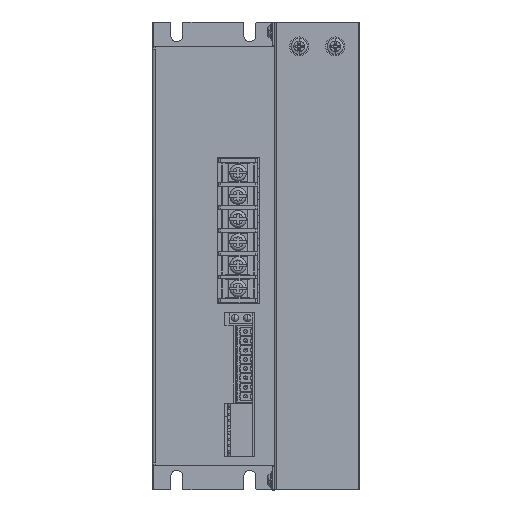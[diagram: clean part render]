
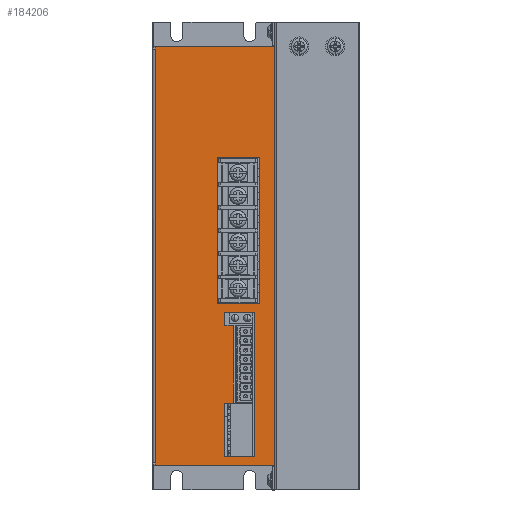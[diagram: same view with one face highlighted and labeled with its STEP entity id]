
A CAD part, left-side view. The second image highlights one B-rep face of the part: STEP entity #184206.
In plain terms, the highlighted planar face has unit normal (-1, 0, 0) as drawn and (0, -1, 0) by its records, which use the part's own axes.
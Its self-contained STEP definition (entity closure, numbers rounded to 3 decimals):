
#3739 = LINE ( 'NONE', #227242, #248769 ) ;
#5283 = CARTESIAN_POINT ( 'NONE',  ( 86., -61., -1.25 ) ) ;
#7043 = EDGE_LOOP ( 'NONE', ( #120480, #234274, #150192, #21841 ) ) ;
#12652 = DIRECTION ( 'NONE',  ( 1., 0., 0. ) ) ;
#21688 = PLANE ( 'NONE',  #206242 ) ;
#21763 = VECTOR ( 'NONE', #250735, 1000. ) ;
#21841 = ORIENTED_EDGE ( 'NONE', *, *, #123555, .F. ) ;
#22116 = VERTEX_POINT ( 'NONE', #171888 ) ;
#22501 = EDGE_LOOP ( 'NONE', ( #52641, #36302, #30814, #111978, #232728, #173608 ) ) ;
#24933 = VERTEX_POINT ( 'NONE', #140419 ) ;
#29952 = DIRECTION ( 'NONE',  ( -1., 0., 0. ) ) ;
#30814 = ORIENTED_EDGE ( 'NONE', *, *, #119197, .F. ) ;
#33419 = CARTESIAN_POINT ( 'NONE',  ( -23.01, -61., -41.7 ) ) ;
#33907 = DIRECTION ( 'NONE',  ( 0., 0., 1. ) ) ;
#36302 = ORIENTED_EDGE ( 'NONE', *, *, #63293, .F. ) ;
#37693 = CARTESIAN_POINT ( 'NONE',  ( -23.01, -61., -41.7 ) ) ;
#44604 = VECTOR ( 'NONE', #244919, 1000. ) ;
#45514 = EDGE_CURVE ( 'NONE', #91182, #252376, #150909, .T. ) ;
#52000 = VERTEX_POINT ( 'NONE', #187025 ) ;
#52641 = ORIENTED_EDGE ( 'NONE', *, *, #229500, .T. ) ;
#55302 = CARTESIAN_POINT ( 'NONE',  ( -84.859, -61., -1.25 ) ) ;
#62912 = DIRECTION ( 'NONE',  ( -1., 0., 0. ) ) ;
#63293 = EDGE_CURVE ( 'NONE', #255740, #235602, #208673, .T. ) ;
#64155 = VERTEX_POINT ( 'NONE', #33419 ) ;
#72402 = LINE ( 'NONE', #136703, #272759 ) ;
#73742 = DIRECTION ( 'NONE',  ( 0., 0., -1. ) ) ;
#77575 = LINE ( 'NONE', #115056, #148022 ) ;
#84694 = CARTESIAN_POINT ( 'NONE',  ( -84.859, -61., -1.25 ) ) ;
#85526 = EDGE_CURVE ( 'NONE', #123959, #24933, #131683, .T. ) ;
#86092 = DIRECTION ( 'NONE',  ( -1., 0., 0. ) ) ;
#87386 = VECTOR ( 'NONE', #132961, 1000. ) ;
#91182 = VERTEX_POINT ( 'NONE', #279193 ) ;
#95464 = CARTESIAN_POINT ( 'NONE',  ( -86., -61., -50.2 ) ) ;
#95646 = ORIENTED_EDGE ( 'NONE', *, *, #217075, .F. ) ;
#95991 = LINE ( 'NONE', #294635, #158889 ) ;
#96186 = CARTESIAN_POINT ( 'NONE',  ( 84.859, -61., -1.25 ) ) ;
#97467 = ORIENTED_EDGE ( 'NONE', *, *, #190687, .F. ) ;
#98198 = VERTEX_POINT ( 'NONE', #138560 ) ;
#98316 = CARTESIAN_POINT ( 'NONE',  ( -28.41, -61., -33.2 ) ) ;
#98568 = CARTESIAN_POINT ( 'NONE',  ( -82.41, -61., -41.7 ) ) ;
#100897 = VERTEX_POINT ( 'NONE', #95464 ) ;
#102301 = DIRECTION ( 'NONE',  ( 1., 0., 0. ) ) ;
#102946 = FACE_BOUND ( 'NONE', #7043, .T. ) ;
#109094 = LINE ( 'NONE', #199646, #157166 ) ;
#110054 = CARTESIAN_POINT ( 'NONE',  ( -86., -61., -50.2 ) ) ;
#111362 = VERTEX_POINT ( 'NONE', #306857 ) ;
#111978 = ORIENTED_EDGE ( 'NONE', *, *, #236971, .F. ) ;
#113297 = CARTESIAN_POINT ( 'NONE',  ( -86., -61., -1.25 ) ) ;
#114218 = VERTEX_POINT ( 'NONE', #98568 ) ;
#115056 = CARTESIAN_POINT ( 'NONE',  ( -19.51, -61., -44. ) ) ;
#115749 = LINE ( 'NONE', #113297, #163859 ) ;
#117087 = DIRECTION ( 'NONE',  ( 1., 0., 0. ) ) ;
#119197 = EDGE_CURVE ( 'NONE', #196593, #255740, #192177, .T. ) ;
#120480 = ORIENTED_EDGE ( 'NONE', *, *, #171987, .F. ) ;
#123555 = EDGE_CURVE ( 'NONE', #284583, #98198, #109094, .T. ) ;
#123959 = VERTEX_POINT ( 'NONE', #149524 ) ;
#126315 = LINE ( 'NONE', #163975, #271106 ) ;
#131683 = LINE ( 'NONE', #205909, #250570 ) ;
#132961 = DIRECTION ( 'NONE',  ( 0., 0., 1. ) ) ;
#134963 = ORIENTED_EDGE ( 'NONE', *, *, #180017, .F. ) ;
#135315 = LINE ( 'NONE', #166700, #179866 ) ;
#135764 = DIRECTION ( 'NONE',  ( 1., 0., 0. ) ) ;
#136703 = CARTESIAN_POINT ( 'NONE',  ( -82.41, -61., -29.7 ) ) ;
#138560 = CARTESIAN_POINT ( 'NONE',  ( 40.49, -61., -26.5 ) ) ;
#138668 = CARTESIAN_POINT ( 'NONE',  ( -23.01, -61., -29.7 ) ) ;
#140419 = CARTESIAN_POINT ( 'NONE',  ( -82.41, -61., -29.7 ) ) ;
#145544 = VECTOR ( 'NONE', #305720, 1000. ) ;
#148022 = VECTOR ( 'NONE', #117087, 1000. ) ;
#148472 = EDGE_CURVE ( 'NONE', #98198, #91182, #135315, .T. ) ;
#149260 = CARTESIAN_POINT ( 'NONE',  ( -28.41, -61., -33.2 ) ) ;
#149524 = CARTESIAN_POINT ( 'NONE',  ( -60.41, -61., -29.7 ) ) ;
#150192 = ORIENTED_EDGE ( 'NONE', *, *, #148472, .F. ) ;
#150909 = LINE ( 'NONE', #306246, #307097 ) ;
#157166 = VECTOR ( 'NONE', #33907, 1000. ) ;
#158889 = VECTOR ( 'NONE', #86092, 1000. ) ;
#163859 = VECTOR ( 'NONE', #232660, 1000. ) ;
#163975 = CARTESIAN_POINT ( 'NONE',  ( -28.41, -61., -29.7 ) ) ;
#165023 = DIRECTION ( 'NONE',  ( 0., 0., -1. ) ) ;
#166700 = CARTESIAN_POINT ( 'NONE',  ( -19.51, -61., -26.5 ) ) ;
#171888 = CARTESIAN_POINT ( 'NONE',  ( -86., -61., -1.25 ) ) ;
#171987 = EDGE_CURVE ( 'NONE', #252376, #284583, #77575, .T. ) ;
#173608 = ORIENTED_EDGE ( 'NONE', *, *, #194793, .T. ) ;
#177546 = LINE ( 'NONE', #84694, #21763 ) ;
#178611 = EDGE_CURVE ( 'NONE', #286319, #22116, #177546, .T. ) ;
#179866 = VECTOR ( 'NONE', #29952, 1000. ) ;
#180017 = EDGE_CURVE ( 'NONE', #24933, #114218, #72402, .T. ) ;
#181048 = LINE ( 'NONE', #223899, #210955 ) ;
#184206 = ADVANCED_FACE ( 'NONE', ( #288777, #102946, #221796 ), #21688, .F. ) ;
#185505 = LINE ( 'NONE', #5283, #44604 ) ;
#185613 = ORIENTED_EDGE ( 'NONE', *, *, #264436, .F. ) ;
#187025 = CARTESIAN_POINT ( 'NONE',  ( -28.41, -61., -29.7 ) ) ;
#187993 = ORIENTED_EDGE ( 'NONE', *, *, #224896, .F. ) ;
#190687 = EDGE_CURVE ( 'NONE', #64155, #223217, #209960, .T. ) ;
#191799 = CARTESIAN_POINT ( 'NONE',  ( 86., -61., -1.25 ) ) ;
#192177 = LINE ( 'NONE', #270425, #262960 ) ;
#194035 = EDGE_CURVE ( 'NONE', #114218, #64155, #3739, .T. ) ;
#194793 = EDGE_CURVE ( 'NONE', #22116, #100897, #115749, .T. ) ;
#196321 = VERTEX_POINT ( 'NONE', #149260 ) ;
#196593 = VERTEX_POINT ( 'NONE', #96186 ) ;
#198859 = DIRECTION ( 'NONE',  ( 0., 0., 1. ) ) ;
#199515 = ORIENTED_EDGE ( 'NONE', *, *, #194035, .F. ) ;
#199646 = CARTESIAN_POINT ( 'NONE',  ( 40.49, -61., -26.5 ) ) ;
#202802 = VECTOR ( 'NONE', #268494, 1000. ) ;
#205909 = CARTESIAN_POINT ( 'NONE',  ( -60.41, -61., -29.7 ) ) ;
#206215 = DIRECTION ( 'NONE',  ( 0., 0., -1. ) ) ;
#206242 = AXIS2_PLACEMENT_3D ( 'NONE', #240506, #277649, #232972 ) ;
#208673 = LINE ( 'NONE', #234110, #145544 ) ;
#209960 = LINE ( 'NONE', #37693, #87386 ) ;
#210955 = VECTOR ( 'NONE', #198859, 1000. ) ;
#211933 = ORIENTED_EDGE ( 'NONE', *, *, #238765, .F. ) ;
#217075 = EDGE_CURVE ( 'NONE', #223217, #52000, #95991, .T. ) ;
#218926 = CARTESIAN_POINT ( 'NONE',  ( -19.51, -61., -44. ) ) ;
#221796 = FACE_OUTER_BOUND ( 'NONE', #22501, .T. ) ;
#223217 = VERTEX_POINT ( 'NONE', #138668 ) ;
#223681 = VECTOR ( 'NONE', #12652, 1000. ) ;
#223899 = CARTESIAN_POINT ( 'NONE',  ( -60.41, -61., -33.2 ) ) ;
#224896 = EDGE_CURVE ( 'NONE', #52000, #196321, #126315, .T. ) ;
#227242 = CARTESIAN_POINT ( 'NONE',  ( -82.41, -61., -41.7 ) ) ;
#229500 = EDGE_CURVE ( 'NONE', #100897, #235602, #238551, .T. ) ;
#232660 = DIRECTION ( 'NONE',  ( 0., 0., -1. ) ) ;
#232728 = ORIENTED_EDGE ( 'NONE', *, *, #178611, .T. ) ;
#232972 = DIRECTION ( 'NONE',  ( 0., 0., 1. ) ) ;
#234110 = CARTESIAN_POINT ( 'NONE',  ( 86., -61., -1.25 ) ) ;
#234274 = ORIENTED_EDGE ( 'NONE', *, *, #45514, .F. ) ;
#235602 = VERTEX_POINT ( 'NONE', #292765 ) ;
#236971 = EDGE_CURVE ( 'NONE', #286319, #196593, #185505, .T. ) ;
#238551 = LINE ( 'NONE', #110054, #223681 ) ;
#238765 = EDGE_CURVE ( 'NONE', #196321, #111362, #266138, .T. ) ;
#240506 = CARTESIAN_POINT ( 'NONE',  ( -86., -61., -1. ) ) ;
#244919 = DIRECTION ( 'NONE',  ( 1., 0., 0. ) ) ;
#248769 = VECTOR ( 'NONE', #135764, 1000. ) ;
#250570 = VECTOR ( 'NONE', #62912, 1000. ) ;
#250735 = DIRECTION ( 'NONE',  ( -1., 0., 0. ) ) ;
#252376 = VERTEX_POINT ( 'NONE', #218926 ) ;
#255740 = VERTEX_POINT ( 'NONE', #191799 ) ;
#262960 = VECTOR ( 'NONE', #102301, 1000. ) ;
#264436 = EDGE_CURVE ( 'NONE', #111362, #123959, #181048, .T. ) ;
#266138 = LINE ( 'NONE', #98316, #202802 ) ;
#268494 = DIRECTION ( 'NONE',  ( -1., 0., 0. ) ) ;
#270425 = CARTESIAN_POINT ( 'NONE',  ( 84.859, -61., -1.25 ) ) ;
#271106 = VECTOR ( 'NONE', #165023, 1000. ) ;
#272759 = VECTOR ( 'NONE', #206215, 1000. ) ;
#277649 = DIRECTION ( 'NONE',  ( 0., 1., 0. ) ) ;
#279193 = CARTESIAN_POINT ( 'NONE',  ( -19.51, -61., -26.5 ) ) ;
#283631 = ORIENTED_EDGE ( 'NONE', *, *, #85526, .F. ) ;
#284583 = VERTEX_POINT ( 'NONE', #300806 ) ;
#286319 = VERTEX_POINT ( 'NONE', #55302 ) ;
#288777 = FACE_BOUND ( 'NONE', #305689, .T. ) ;
#292765 = CARTESIAN_POINT ( 'NONE',  ( 86., -61., -50.2 ) ) ;
#294635 = CARTESIAN_POINT ( 'NONE',  ( -23.01, -61., -29.7 ) ) ;
#300806 = CARTESIAN_POINT ( 'NONE',  ( 40.49, -61., -44. ) ) ;
#305689 = EDGE_LOOP ( 'NONE', ( #199515, #134963, #283631, #185613, #211933, #187993, #95646, #97467 ) ) ;
#305720 = DIRECTION ( 'NONE',  ( 0., 0., -1. ) ) ;
#306246 = CARTESIAN_POINT ( 'NONE',  ( -19.51, -61., -26.5 ) ) ;
#306857 = CARTESIAN_POINT ( 'NONE',  ( -60.41, -61., -33.2 ) ) ;
#307097 = VECTOR ( 'NONE', #73742, 1000. ) ;
